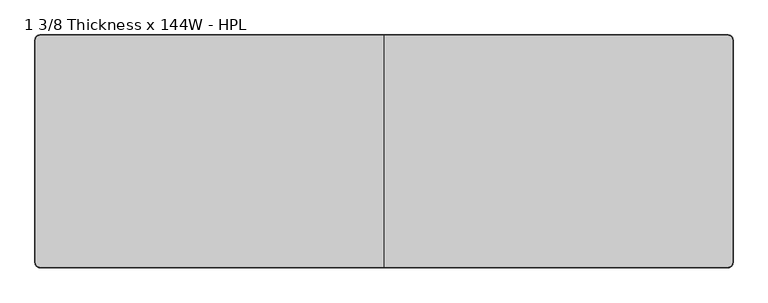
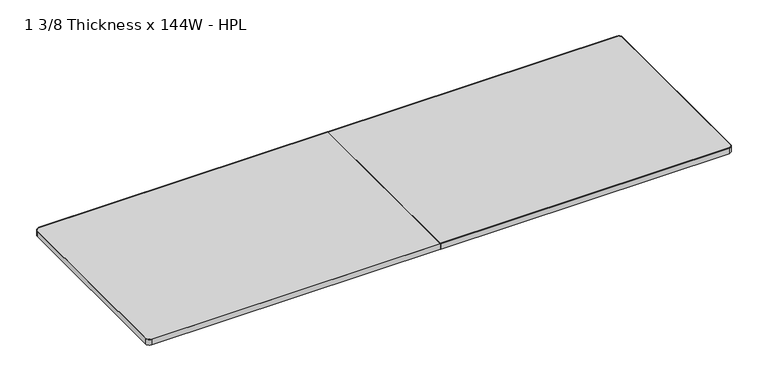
"""IFC4 building model written with IfcOpenShell, lengths in millimetres: furniture geometry, Steelcase - Groupwork - Table - Conference Table Top - Rectangular : 1 3/8 Thickness x 144W - HPL."""

from ifc_helpers import new_model, si_unit, point, frame, frame_2d, origin, place, context, project, spatial, polyline, circle_curve, trimmed, segment, composite_curve, outline, extrude, source, transform, mapped, element, save


def furniture_1_3_8_thickness_x_144w_hpl_0d01c1f1(model_context):
    return source(origin(), model_context, "Body", "SweptSolid", [
        extrude(outline(composite_curve([segment(trimmed(circle_curve(frame_2d((-1831.34, -583.74)), 22.86), [point((-1831.34, -606.6))], [point((-1854.2, -583.74))], False, "CARTESIAN"), True, "CONTINUOUS"), segment(polyline([(-1854.2, -583.74), (-1854.2, 583.74)]), True, "CONTINUOUS"), segment(trimmed(circle_curve(frame_2d((-1831.34, 583.74)), 22.86), [point((-1854.2, 583.74))], [point((-1831.34, 606.6))], False, "CARTESIAN"), True, "CONTINUOUS"), segment(polyline([(-1831.34, 606.6), (-29.7587236, 606.6), (-29.7587236, -606.6), (-1831.34, -606.6)]), True, "CONTINUOUS")], self_intersect=False)), frame((0.0, 0.0, 694.944), z_axis=(0.0, 0.0, 1.0), x_axis=(1.0, 0.0, 0.0)), (0.0, 0.0, 1.0), 35.052),
        extrude(outline(composite_curve([segment(trimmed(circle_curve(frame_2d((1774.54, 583.74)), 22.86), [point((1774.54, 606.6))], [point((1797.4, 583.74))], False, "CARTESIAN"), True, "CONTINUOUS"), segment(polyline([(1797.4, 583.74), (1797.4, -583.74)]), True, "CONTINUOUS"), segment(trimmed(circle_curve(frame_2d((1774.54, -583.74)), 22.86), [point((1797.4, -583.74))], [point((1774.54, -606.6))], False, "CARTESIAN"), True, "CONTINUOUS"), segment(polyline([(1774.54, -606.6), (-27.2187236, -606.6), (-27.2187236, 606.6), (1774.54, 606.6)]), True, "CONTINUOUS")], self_intersect=False)), frame((0.0, 0.0, 694.944), z_axis=(0.0, 0.0, 1.0), x_axis=(1.0, 0.0, 0.0)), (0.0, 0.0, 1.0), 35.052),
        extrude(outline(composite_curve([segment(trimmed(circle_curve(frame_2d((-1831.8, -584.2)), 25.4), [point((-1831.8, -609.6))], [point((-1857.2, -584.2))], False, "CARTESIAN"), True, "CONTINUOUS"), segment(polyline([(-1857.2, -584.2), (-1857.2, 584.2)]), True, "CONTINUOUS"), segment(trimmed(circle_curve(frame_2d((-1831.8, 584.2)), 25.4), [point((-1857.2, 584.2))], [point((-1831.8, 609.6))], False, "CARTESIAN"), True, "CONTINUOUS"), segment(polyline([(-1831.8, 609.6), (-29.7587236, 609.6), (-29.7587236, 606.6), (-1831.34, 606.6)]), True, "CONTINUOUS"), segment(trimmed(circle_curve(frame_2d((-1831.34, 583.74)), 22.86), [point((-1831.34, 606.6))], [point((-1854.2, 583.74))], True, "CARTESIAN"), True, "CONTINUOUS"), segment(polyline([(-1854.2, 583.74), (-1854.2, -583.74)]), True, "CONTINUOUS"), segment(trimmed(circle_curve(frame_2d((-1831.34, -583.74)), 22.86), [point((-1854.2, -583.74))], [point((-1831.34, -606.6))], True, "CARTESIAN"), True, "CONTINUOUS"), segment(polyline([(-1831.34, -606.6), (-29.7587236, -606.6), (-29.7587236, -609.6), (-1831.8, -609.6)]), True, "CONTINUOUS")], self_intersect=False)), frame((0.0, 0.0, 694.944), z_axis=(0.0, 0.0, 1.0), x_axis=(1.0, 0.0, 0.0)), (0.0, 0.0, 1.0), 35.052),
        extrude(outline(composite_curve([segment(trimmed(circle_curve(frame_2d((1774.9385373, 584.1385373)), 25.4614627), [point((1774.9385373, 609.6))], [point((1800.4, 584.1385373))], False, "CARTESIAN"), True, "CONTINUOUS"), segment(polyline([(1800.4, 584.1385373), (1800.4, -584.2211297)]), True, "CONTINUOUS"), segment(trimmed(circle_curve(frame_2d((1775.0211297, -584.2211297)), 25.3788703), [point((1800.4, -584.2211297))], [point((1775.0211297, -609.6))], False, "CARTESIAN"), True, "CONTINUOUS"), segment(polyline([(1775.0211297, -609.6), (-27.2187236, -609.6), (-27.2187236, -606.6), (1774.373488, -606.6)]), True, "CONTINUOUS"), segment(trimmed(circle_curve(frame_2d((1774.373488, -583.573488)), 23.026512), [point((1774.373488, -606.6))], [point((1797.4, -583.573488))], True, "CARTESIAN"), True, "CONTINUOUS"), segment(polyline([(1797.4, -583.573488), (1797.4, 583.8064662)]), True, "CONTINUOUS"), segment(trimmed(circle_curve(frame_2d((1774.6064662, 583.8064662)), 22.7935338), [point((1797.4, 583.8064662))], [point((1774.6064662, 606.6))], True, "CARTESIAN"), True, "CONTINUOUS"), segment(polyline([(1774.6064662, 606.6), (-27.2187236, 606.6), (-27.2187236, 609.6), (1774.9385373, 609.6)]), True, "CONTINUOUS")], self_intersect=False)), frame((0.0, 0.0, 694.944), z_axis=(0.0, 0.0, 1.0), x_axis=(1.0, 0.0, 0.0)), (0.0, 0.0, 1.0), 35.052),
    ])


if __name__ == "__main__":
    model = new_model("IFC4")
    model_context = context("Model", 3, world=origin())
    ifc_project = project(units=[si_unit("LENGTHUNIT", "METRE", prefix="MILLI")], contexts=[model_context])
    site = spatial("IfcSite", under=ifc_project)
    building = spatial("IfcBuilding", under=site)
    placement = place(None, origin())
    furniture_1_3_8_thickness_x_144w_hpl_shape = furniture_1_3_8_thickness_x_144w_hpl_0d01c1f1(model_context)
    element("IfcFurniture", 1, ObjectType="Steelcase - Groupwork - Table - Conference Table Top - Rectangular : 1 3/8 Thickness x 144W - HPL", at=placement, inside=building, context=model_context, shape_type="MappedRepresentation", body=[
        mapped(furniture_1_3_8_thickness_x_144w_hpl_shape, transform((0.0, 0.0, 0.0), x_axis=(1.0, 0.0, 0.0), y_axis=(0.0, 1.0, 0.0), z_axis=(0.0, 0.0, 1.0))),
    ])
    save(model, "model.ifc")
